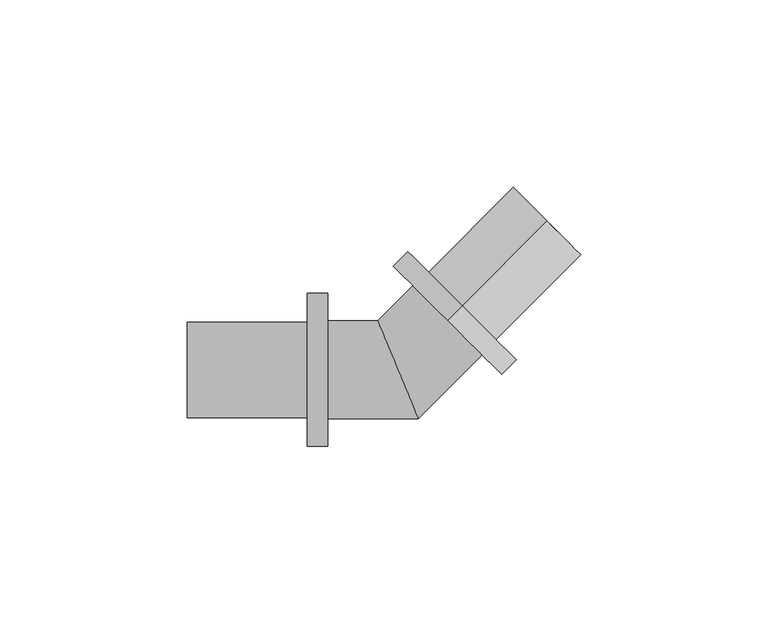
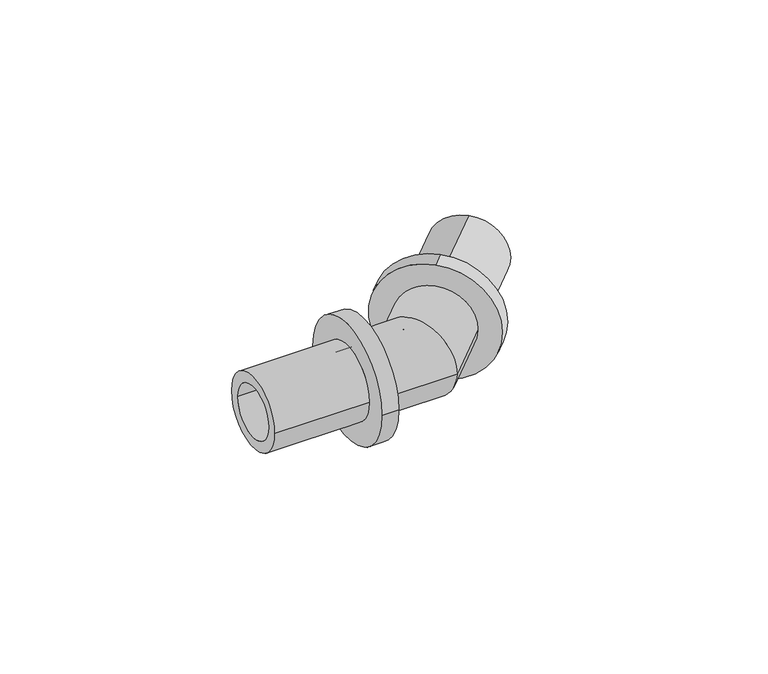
"""IFC4 building model written with IfcOpenShell, lengths in millimetres: pipe fitting geometry, RAUTITAN_Corner_PX : RTI PX C DE."""

from ifc_helpers import new_model, si_unit, frame, origin, place, context, project, spatial, polyline, circle_curve, ellipse_curve, source, transform, mapped, element, save
from ifc_brep_helpers import plane_surface, cylinder_surface, revolved_surface, advanced_brep


def pipe_fitting_90966a7d(model_context):
    return source(origin(), model_context, "Body", "AdvancedBrep", [
        advanced_brep(
        [(17.1213203, 17.1213203, 20.45), (17.1213203, 17.1213203, -20.45), (13.232233, 13.232233, -20.45), (13.232233, 13.232233, 20.45), (39.7487373, 39.7487373, 12.75), (39.7487373, 39.7487373, -12.75), (17.1213203, 17.1213203, -12.75), (17.1213203, 17.1213203, 12.75), (13.232233, 13.232233, 9.05), (13.232233, 13.232233, -9.05), (39.7487373, 39.7487373, -9.05), (39.7487373, 39.7487373, 9.05)],
        [
            (0, 1, circle_curve(frame((17.1213203, 17.1213203, 0.0), z_axis=(-0.707106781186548, -0.707106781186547, 0.0), x_axis=(0.0, 0.0, -1.0)), 20.45)),
            (1, 2),
            (2, 3, circle_curve(frame((13.232233, 13.232233, 0.0), z_axis=(0.707106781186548, 0.707106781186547, 0.0), x_axis=(0.0, 0.0, -1.0)), 20.45)),
            (3, 0),
            (4, 5, circle_curve(frame((39.7487373, 39.7487373, 0.0), z_axis=(-0.707106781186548, -0.707106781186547, 0.0), x_axis=(0.0, 0.0, -1.0)), 12.75)),
            (5, 6),
            (6, 7, circle_curve(frame((17.1213203, 17.1213203, 0.0), z_axis=(0.707106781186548, 0.707106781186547, 0.0), x_axis=(0.0, 0.0, -1.0)), 12.75)),
            (7, 4),
            (8, 9, circle_curve(frame((13.232233, 13.232233, 0.0), z_axis=(-0.707106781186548, -0.707106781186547, 0.0), x_axis=(0.0, 0.0, -1.0)), 9.05)),
            (9, 10),
            (10, 11, circle_curve(frame((39.7487373, 39.7487373, 0.0), z_axis=(0.707106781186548, 0.707106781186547, 0.0), x_axis=(0.0, 0.0, -1.0)), 9.05)),
            (11, 8),
            (1, 0, circle_curve(frame((17.1213203, 17.1213203, 0.0), z_axis=(-0.707106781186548, -0.707106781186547, 0.0), x_axis=(0.0, 0.0, 1.0)), 20.45)),
            (3, 2, circle_curve(frame((13.232233, 13.232233, 0.0), z_axis=(0.707106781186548, 0.707106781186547, 0.0), x_axis=(0.0, 0.0, 1.0)), 20.45)),
            (6, 7, circle_curve(frame((17.1213203, 17.1213203, 0.0), z_axis=(-0.707106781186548, -0.707106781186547, 0.0), x_axis=(0.0, 0.0, 1.0)), 12.75)),
            (5, 4, circle_curve(frame((39.7487373, 39.7487373, 0.0), z_axis=(-0.707106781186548, -0.707106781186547, 0.0), x_axis=(0.0, 0.0, 1.0)), 12.75)),
            (10, 11, circle_curve(frame((39.7487373, 39.7487373, 0.0), z_axis=(-0.707106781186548, -0.707106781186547, 0.0), x_axis=(0.0, 0.0, 1.0)), 9.05)),
            (9, 8, circle_curve(frame((13.232233, 13.232233, 0.0), z_axis=(-0.707106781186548, -0.707106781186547, 0.0), x_axis=(0.0, 0.0, 1.0)), 9.05)),
        ],
        [
            cylinder_surface(frame((13.232233, 13.232233, 0.0), z_axis=(0.707106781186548, 0.707106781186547, 0.0), x_axis=(0.0, 0.0, -1.0)), 20.45),
            cylinder_surface(frame((13.232233, 13.232233, 0.0), z_axis=(0.707106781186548, 0.707106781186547, 0.0), x_axis=(0.0, 0.0, -1.0)), 12.75),
            revolved_surface(polyline([(39.748737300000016, 39.74873729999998, -9.05), (13.232233, 13.232233, -9.05)]), (13.232233, 13.232233, 0.0), (0.707106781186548, 0.707106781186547, 0.0)),
            cylinder_surface(frame((13.232233, 13.232233, 0.0), z_axis=(0.707106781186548, 0.707106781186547, 0.0), x_axis=(0.0, 0.0, 1.0)), 20.45),
            plane_surface(frame((17.1213203, 17.1213203, 0.0), z_axis=(0.707106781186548, 0.707106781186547, 0.0), x_axis=(0.0, 0.0, 1.0))),
            cylinder_surface(frame((13.232233, 13.232233, 0.0), z_axis=(0.707106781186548, 0.707106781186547, 0.0), x_axis=(0.0, 0.0, 1.0)), 12.75),
            plane_surface(frame((39.7487373, 39.7487373, 0.0), z_axis=(0.707106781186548, 0.707106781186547, 0.0), x_axis=(0.0, 0.0, 1.0))),
            revolved_surface(polyline([(39.748737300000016, 39.74873729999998, 9.05), (13.232233, 13.232233, 9.05)]), (13.232233, 13.232233, 0.0), (0.707106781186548, 0.707106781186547, 0.0)),
            plane_surface(frame((13.232233, 13.232233, 0.0), z_axis=(-0.707106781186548, -0.707106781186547, 0.0), x_axis=(0.0, 0.0, 1.0))),
        ],
        [
            (0, [[1, 2, 3, 4]]),
            (1, [[5, 6, 7, 8]]),
            (2, [[9, 10, 11, 12]]),
            (3, [[13, -4, 14, -2]]),
            (4, [[-13, -1], [15, -7]]),
            (5, [[16, -8, -15, -6]]),
            (6, [[-16, -5], [17, -11]]),
            (7, [[18, -12, -17, -10]]),
            (8, [[-14, -3], [-18, -9]]),
        ],
    ),
        advanced_brep(
        [(-24.2132034, -20.45, 0.0), (-24.2132034, 20.45, 0.0), (-18.7132034, 20.45, 0.0), (-18.7132034, -20.45, 0.0), (-56.2132034, -12.75, 0.0), (-56.2132034, 12.75, 0.0), (-24.2132034, 12.75, 0.0), (-24.2132034, -12.75, 0.0), (-18.7132034, -9.05, 0.0), (-18.7132034, 9.05, 0.0), (-56.2132034, 9.05, 0.0), (-56.2132034, -9.05, 0.0)],
        [
            (0, 1, circle_curve(frame((-24.2132034, 0.0, 0.0), z_axis=(1.0, 0.0, 0.0), x_axis=(0.0, 1.0, 0.0)), 20.45)),
            (1, 2),
            (2, 3, circle_curve(frame((-18.7132034, 0.0, 0.0), z_axis=(-1.0, 0.0, 0.0), x_axis=(0.0, 1.0, 0.0)), 20.45)),
            (3, 0),
            (4, 5, circle_curve(frame((-56.2132034, 0.0, 0.0), z_axis=(1.0, 0.0, 0.0), x_axis=(0.0, 1.0, 0.0)), 12.75)),
            (5, 6),
            (6, 7, circle_curve(frame((-24.2132034, 0.0, 0.0), z_axis=(-1.0, 0.0, 0.0), x_axis=(0.0, 1.0, 0.0)), 12.75)),
            (7, 4),
            (8, 9, circle_curve(frame((-18.7132034, 0.0, 0.0), z_axis=(1.0, 0.0, 0.0), x_axis=(0.0, 1.0, 0.0)), 9.05)),
            (9, 10),
            (10, 11, circle_curve(frame((-56.2132034, 0.0, 0.0), z_axis=(-1.0, 0.0, 0.0), x_axis=(0.0, 1.0, 0.0)), 9.05)),
            (11, 8),
            (1, 0, circle_curve(frame((-24.2132034, 0.0, 0.0), z_axis=(1.0, 0.0, 0.0), x_axis=(0.0, -1.0, 0.0)), 20.45)),
            (3, 2, circle_curve(frame((-18.7132034, 0.0, 0.0), z_axis=(-1.0, 0.0, 0.0), x_axis=(0.0, -1.0, 0.0)), 20.45)),
            (6, 7, circle_curve(frame((-24.2132034, 0.0, 0.0), z_axis=(1.0, 0.0, 0.0), x_axis=(0.0, -1.0, 0.0)), 12.75)),
            (5, 4, circle_curve(frame((-56.2132034, 0.0, 0.0), z_axis=(1.0, 0.0, 0.0), x_axis=(0.0, -1.0, 0.0)), 12.75)),
            (10, 11, circle_curve(frame((-56.2132034, 0.0, 0.0), z_axis=(1.0, 0.0, 0.0), x_axis=(0.0, -1.0, 0.0)), 9.05)),
            (9, 8, circle_curve(frame((-18.7132034, 0.0, 0.0), z_axis=(1.0, 0.0, 0.0), x_axis=(0.0, -1.0, 0.0)), 9.05)),
        ],
        [
            cylinder_surface(frame((-18.7132034, 0.0, 0.0), z_axis=(-1.0, 0.0, 0.0), x_axis=(0.0, 1.0, 0.0)), 20.45),
            cylinder_surface(frame((-18.7132034, 0.0, 0.0), z_axis=(-1.0, 0.0, 0.0), x_axis=(0.0, 1.0, 0.0)), 12.75),
            revolved_surface(polyline([(-56.2132034, 9.05, 0.0), (-18.7132034, 9.05, 0.0)]), (-18.7132034, 0.0, 0.0), (-1.0, 0.0, 0.0)),
            cylinder_surface(frame((-18.7132034, 0.0, 0.0), z_axis=(-1.0, 0.0, 0.0), x_axis=(0.0, -1.0, 0.0)), 20.45),
            plane_surface(frame((-24.2132034, 0.0, 0.0), z_axis=(-1.0, 0.0, 0.0), x_axis=(0.0, -1.0, 0.0))),
            cylinder_surface(frame((-18.7132034, 0.0, 0.0), z_axis=(-1.0, 0.0, 0.0), x_axis=(0.0, -1.0, 0.0)), 12.75),
            plane_surface(frame((-56.2132034, 0.0, 0.0), z_axis=(-1.0, 0.0, 0.0), x_axis=(0.0, -1.0, 0.0))),
            revolved_surface(polyline([(-56.2132034, -9.05, 0.0), (-18.7132034, -9.05, 0.0)]), (-18.7132034, 0.0, 0.0), (-1.0, 0.0, 0.0)),
            plane_surface(frame((-18.7132034, 0.0, 0.0), z_axis=(1.0, 0.0, 0.0), x_axis=(0.0, -1.0, 0.0))),
        ],
        [
            (0, [[1, 2, 3, 4]]),
            (1, [[5, 6, 7, 8]]),
            (2, [[9, 10, 11, 12]]),
            (3, [[13, -4, 14, -2]]),
            (4, [[-13, -1], [15, -7]]),
            (5, [[16, -8, -15, -6]]),
            (6, [[-16, -5], [17, -11]]),
            (7, [[18, -12, -17, -10]]),
            (8, [[-14, -3], [-18, -9]]),
        ],
    ),
        advanced_brep(
        [(-18.7132034, -13.05, 0.0), (-18.7132034, 13.05, 0.0), (-18.7132034, -9.05, 0.0), (-18.7132034, 9.05, 0.0), (-3.7486327, 9.05, 0.0), (3.7486327, -9.05, 0.0), (22.4599765, 4.0044896, 0.0), (4.0044896, 22.4599765, 0.0), (19.6315494, 6.8329167, 0.0), (6.8329167, 19.6315494, 0.0), (5.405487, -13.05, 0.0), (-5.405487, 13.05, 0.0)],
        [
            (0, 1, circle_curve(frame((-18.7132034, 0.0, 0.0), z_axis=(-1.0, 0.0, 0.0), x_axis=(0.0, 1.0, 0.0)), 13.05)),
            (1, 0, circle_curve(frame((-18.7132034, 0.0, 0.0), z_axis=(-1.0, 0.0, 0.0), x_axis=(0.0, 1.0, 0.0)), 13.05)),
            (2, 3, circle_curve(frame((-18.7132034, 0.0, 0.0), z_axis=(1.0, 0.0, 0.0), x_axis=(0.0, 1.0, 0.0)), 9.05)),
            (3, 2, circle_curve(frame((-18.7132034, 0.0, 0.0), z_axis=(1.0, 0.0, 0.0), x_axis=(0.0, 1.0, 0.0)), 9.05)),
            (3, 4),
            (4, 5, ellipse_curve(frame((0.0, 0.0, 0.0), z_axis=(0.923879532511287, 0.38268343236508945, 0.0), x_axis=(0.38268343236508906, -0.9238795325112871, 0.0)), 9.7956494, 9.05)),
            (5, 2),
            (5, 4, ellipse_curve(frame((0.0, 0.0, 0.0), z_axis=(0.923879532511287, 0.38268343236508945, 0.0), x_axis=(0.38268343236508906, -0.9238795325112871, 0.0)), 9.7956494, 9.05)),
            (6, 7, circle_curve(frame((13.232233, 13.232233, 0.0), z_axis=(0.7071067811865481, 0.707106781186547, 0.0), x_axis=(-0.707106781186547, 0.7071067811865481, 0.0)), 13.05)),
            (7, 6, circle_curve(frame((13.232233, 13.232233, 0.0), z_axis=(0.7071067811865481, 0.707106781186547, 0.0), x_axis=(-0.707106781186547, 0.7071067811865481, 0.0)), 13.05)),
            (8, 9, circle_curve(frame((13.232233, 13.232233, 0.0), z_axis=(-0.7071067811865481, -0.707106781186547, 0.0), x_axis=(-0.707106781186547, 0.7071067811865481, 0.0)), 9.05)),
            (9, 8, circle_curve(frame((13.232233, 13.232233, 0.0), z_axis=(-0.7071067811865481, -0.707106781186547, 0.0), x_axis=(-0.707106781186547, 0.7071067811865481, 0.0)), 9.05)),
            (4, 9),
            (8, 5),
            (0, 10),
            (10, 11, ellipse_curve(frame((0.0, 0.0, 0.0), z_axis=(-0.923879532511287, -0.38268343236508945, 0.0), x_axis=(-0.38268343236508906, 0.9238795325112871, 0.0)), 14.1252182, 13.05)),
            (11, 1),
            (11, 10, ellipse_curve(frame((0.0, 0.0, 0.0), z_axis=(-0.923879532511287, -0.38268343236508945, 0.0), x_axis=(-0.38268343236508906, 0.9238795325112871, 0.0)), 14.1252182, 13.05)),
            (10, 6),
            (7, 11),
        ],
        [
            plane_surface(frame((-18.7132034, 0.0, 0.0), z_axis=(-1.0, 0.0, 0.0), x_axis=(0.0, 0.0, 1.0))),
            revolved_surface(polyline([(3.748632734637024, 9.05, 0.0), (-18.7132034, 9.05, 0.0)]), (-18.7132034, 0.0, 0.0), (1.0, 0.0, 0.0)),
            plane_surface(frame((13.232233, 13.232233, 0.0), z_axis=(0.7071067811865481, 0.707106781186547, 0.0), x_axis=(0.0, 0.0, 1.0))),
            revolved_surface(polyline([(6.832916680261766, 19.631549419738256, 0.0), (-9.050000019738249, 3.7486327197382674, 0.0)]), (0.0, 0.0, 0.0), (0.7071067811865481, 0.707106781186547, 0.0)),
            cylinder_surface(frame((-18.7132034, 0.0, 0.0), z_axis=(-1.0, 0.0, 0.0), x_axis=(0.0, 1.0, 0.0)), 13.05),
            cylinder_surface(frame((0.0, 0.0, 0.0), z_axis=(-0.7071067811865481, -0.707106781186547, 0.0), x_axis=(-0.707106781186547, 0.7071067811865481, 0.0)), 13.05),
        ],
        [
            (0, [[1, 2], [3, 4]]),
            (1, [[-4, 5, 6, 7]]),
            (1, [[-3, -7, 8, -5]]),
            (2, [[9, 10], [11, 12]]),
            (3, [[-6, 13, -11, 14]]),
            (3, [[-8, -14, -12, -13]]),
            (4, [[-1, 15, 16, 17]]),
            (4, [[-2, -17, 18, -15]]),
            (5, [[-16, 19, -10, 20]]),
            (5, [[-18, -20, -9, -19]]),
        ],
    ),
    ])


if __name__ == "__main__":
    model = new_model("IFC4")
    model_context = context("Model", 3, world=origin())
    ifc_project = project(units=[si_unit("LENGTHUNIT", "METRE", prefix="MILLI")], contexts=[model_context])
    site = spatial("IfcSite", under=ifc_project)
    building = spatial("IfcBuilding", under=site)
    placement = place(None, origin())
    pipe_fitting_shape = pipe_fitting_90966a7d(model_context)
    element("IfcPipeFitting", 1, ObjectType="RAUTITAN_Corner_PX : RTI PX C DE", at=placement, inside=building, context=model_context, shape_type="MappedRepresentation", body=[
        mapped(pipe_fitting_shape, transform((0.0, 0.0, 0.0), x_axis=(1.0, 0.0, 0.0), y_axis=(0.0, 1.0, 0.0), z_axis=(0.0, 0.0, 1.0))),
    ])
    save(model, "model.ifc")
